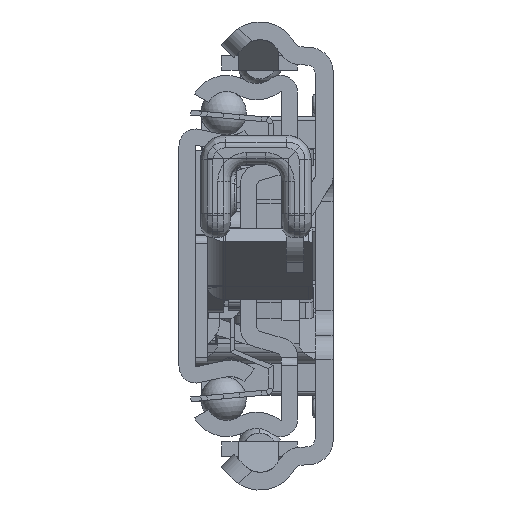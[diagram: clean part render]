
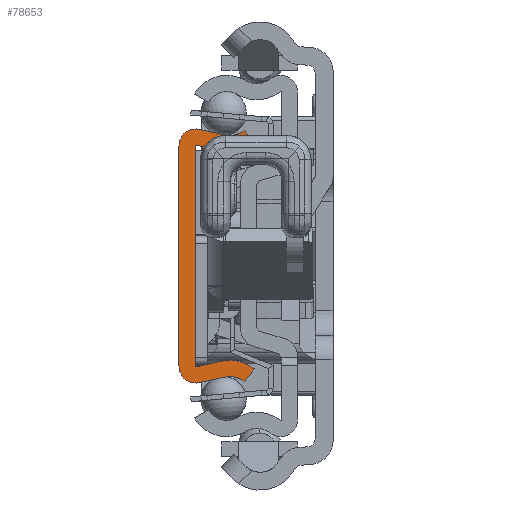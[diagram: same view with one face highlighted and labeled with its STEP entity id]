
A CAD part, left-side view. The second image highlights one B-rep face of the part: STEP entity #78653.
In plain terms, the highlighted planar face has unit normal (-1, 0, 0).
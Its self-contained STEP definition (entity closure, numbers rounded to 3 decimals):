
#72983=CARTESIAN_POINT('',(0.,-6.29,-17.65));
#72984=DIRECTION('',(-1.,0.,0.));
#72985=DIRECTION('',(0.,-0.629,0.778));
#72986=AXIS2_PLACEMENT_3D('',#72983,#72984,#72985);
#72988=DIRECTION('',(0.,0.977,-0.213));
#72989=VECTOR('',#72988,3.218);
#72990=CARTESIAN_POINT('',(0.,-5.692,-14.915));
#72991=LINE('',#72990,#72989);
#72992=CARTESIAN_POINT('',(0.,-2.1,-13.55));
#72993=DIRECTION('',(1.,0.,0.));
#72994=DIRECTION('',(0.,-0.213,-0.977));
#72995=AXIS2_PLACEMENT_3D('',#72992,#72993,#72994);
#72997=DIRECTION('',(0.,0.,1.));
#72998=VECTOR('',#72997,27.1);
#72999=CARTESIAN_POINT('',(0.,0.,-13.55));
#73000=LINE('',#72999,#72998);
#73001=CARTESIAN_POINT('',(0.,-2.1,13.55));
#73002=DIRECTION('',(1.,0.,0.));
#73003=DIRECTION('',(0.,1.,0.));
#73004=AXIS2_PLACEMENT_3D('',#73001,#73002,#73003);
#73006=DIRECTION('',(0.,-0.977,-0.213));
#73007=VECTOR('',#73006,3.218);
#73008=CARTESIAN_POINT('',(0.,-2.548,15.602));
#73009=LINE('',#73008,#73007);
#73010=CARTESIAN_POINT('',(0.,-6.29,17.65));
#73011=DIRECTION('',(-1.,0.,0.));
#73012=DIRECTION('',(0.,0.213,-0.977));
#73013=AXIS2_PLACEMENT_3D('',#73010,#73011,#73012);
#73015=DIRECTION('',(0.,-0.629,-0.778));
#73016=VECTOR('',#73015,2.);
#73017=CARTESIAN_POINT('',(0.,-8.05,15.472));
#73018=LINE('',#73017,#73016);
#73019=CARTESIAN_POINT('',(0.,-6.29,17.65));
#73020=DIRECTION('',(1.,0.,0.));
#73021=DIRECTION('',(0.,-0.629,-0.778));
#73022=AXIS2_PLACEMENT_3D('',#73019,#73020,#73021);
#73024=DIRECTION('',(0.,0.977,0.213));
#73025=VECTOR('',#73024,3.218);
#73026=CARTESIAN_POINT('',(0.,-5.265,12.961));
#73027=LINE('',#73026,#73025);
#73028=CARTESIAN_POINT('',(0.,-2.1,13.55));
#73029=DIRECTION('',(-1.,0.,0.));
#73030=DIRECTION('',(0.,-0.213,0.977));
#73031=AXIS2_PLACEMENT_3D('',#73028,#73029,#73030);
#73033=DIRECTION('',(0.,0.,-1.));
#73034=VECTOR('',#73033,27.1);
#73035=CARTESIAN_POINT('',(0.,-2.,13.55));
#73036=LINE('',#73035,#73034);
#73037=CARTESIAN_POINT('',(0.,-2.1,-13.55));
#73038=DIRECTION('',(-1.,0.,0.));
#73039=DIRECTION('',(0.,1.,0.));
#73040=AXIS2_PLACEMENT_3D('',#73037,#73038,#73039);
#73042=DIRECTION('',(0.,-0.977,0.213));
#73043=VECTOR('',#73042,3.218);
#73044=CARTESIAN_POINT('',(0.,-2.121,-13.648));
#73045=LINE('',#73044,#73043);
#73046=CARTESIAN_POINT('',(0.,-6.29,-17.65));
#73047=DIRECTION('',(1.,0.,0.));
#73048=DIRECTION('',(0.,0.213,0.977));
#73049=AXIS2_PLACEMENT_3D('',#73046,#73047,#73048);
#73051=DIRECTION('',(0.,0.629,-0.778));
#73052=VECTOR('',#73051,2.);
#73053=CARTESIAN_POINT('',(0.,-9.307,-13.917));
#73054=LINE('',#73053,#73052);
#77580=CARTESIAN_POINT('',(0.,-8.05,-15.472));
#77581=CARTESIAN_POINT('',(0.,-5.692,-14.915));
#77582=VERTEX_POINT('',#77580);
#77583=VERTEX_POINT('',#77581);
#77584=CARTESIAN_POINT('',(0.,-2.548,-15.602));
#77585=VERTEX_POINT('',#77584);
#77586=CARTESIAN_POINT('',(0.,0.,-13.55));
#77587=VERTEX_POINT('',#77586);
#77588=CARTESIAN_POINT('',(0.,0.,13.55));
#77589=VERTEX_POINT('',#77588);
#77590=CARTESIAN_POINT('',(0.,-2.548,15.602));
#77591=VERTEX_POINT('',#77590);
#77592=CARTESIAN_POINT('',(0.,-5.692,14.915));
#77593=VERTEX_POINT('',#77592);
#77594=CARTESIAN_POINT('',(0.,-8.05,15.472));
#77595=VERTEX_POINT('',#77594);
#77596=CARTESIAN_POINT('',(0.,-9.307,13.917));
#77597=VERTEX_POINT('',#77596);
#77598=CARTESIAN_POINT('',(0.,-5.265,12.961));
#77599=VERTEX_POINT('',#77598);
#77600=CARTESIAN_POINT('',(0.,-2.121,13.648));
#77601=VERTEX_POINT('',#77600);
#77602=CARTESIAN_POINT('',(0.,-2.,13.55));
#77603=VERTEX_POINT('',#77602);
#77604=CARTESIAN_POINT('',(0.,-2.,-13.55));
#77605=VERTEX_POINT('',#77604);
#77606=CARTESIAN_POINT('',(0.,-2.121,-13.648));
#77607=VERTEX_POINT('',#77606);
#77608=CARTESIAN_POINT('',(0.,-5.265,-12.961));
#77609=VERTEX_POINT('',#77608);
#77610=CARTESIAN_POINT('',(0.,-9.307,-13.917));
#77611=VERTEX_POINT('',#77610);
#78614=CARTESIAN_POINT('',(0.,0.,0.));
#78615=DIRECTION('',(1.,0.,0.));
#78616=DIRECTION('',(0.,-1.,0.));
#78617=AXIS2_PLACEMENT_3D('',#78614,#78615,#78616);
#78618=PLANE('',#78617);
#78620=ORIENTED_EDGE('',*,*,#78619,.T.);
#78622=ORIENTED_EDGE('',*,*,#78621,.T.);
#78624=ORIENTED_EDGE('',*,*,#78623,.T.);
#78626=ORIENTED_EDGE('',*,*,#78625,.T.);
#78628=ORIENTED_EDGE('',*,*,#78627,.T.);
#78630=ORIENTED_EDGE('',*,*,#78629,.T.);
#78632=ORIENTED_EDGE('',*,*,#78631,.T.);
#78634=ORIENTED_EDGE('',*,*,#78633,.T.);
#78636=ORIENTED_EDGE('',*,*,#78635,.T.);
#78638=ORIENTED_EDGE('',*,*,#78637,.T.);
#78640=ORIENTED_EDGE('',*,*,#78639,.T.);
#78642=ORIENTED_EDGE('',*,*,#78641,.T.);
#78644=ORIENTED_EDGE('',*,*,#78643,.T.);
#78646=ORIENTED_EDGE('',*,*,#78645,.T.);
#78648=ORIENTED_EDGE('',*,*,#78647,.T.);
#78650=ORIENTED_EDGE('',*,*,#78649,.T.);
#78651=EDGE_LOOP('',(#78620,#78622,#78624,#78626,#78628,#78630,#78632,#78634,
#78636,#78638,#78640,#78642,#78644,#78646,#78648,#78650));
#78652=FACE_OUTER_BOUND('',#78651,.F.);
#72987=CIRCLE('',#72986,2.8);
#72996=CIRCLE('',#72995,2.1);
#73005=CIRCLE('',#73004,2.1);
#73014=CIRCLE('',#73013,2.8);
#73023=CIRCLE('',#73022,4.8);
#73032=CIRCLE('',#73031,0.1);
#73041=CIRCLE('',#73040,0.1);
#73050=CIRCLE('',#73049,4.8);
#78619=EDGE_CURVE('',#77582,#77583,#72987,.T.);
#78621=EDGE_CURVE('',#77583,#77585,#72991,.T.);
#78623=EDGE_CURVE('',#77585,#77587,#72996,.T.);
#78625=EDGE_CURVE('',#77587,#77589,#73000,.T.);
#78627=EDGE_CURVE('',#77589,#77591,#73005,.T.);
#78629=EDGE_CURVE('',#77591,#77593,#73009,.T.);
#78631=EDGE_CURVE('',#77593,#77595,#73014,.T.);
#78633=EDGE_CURVE('',#77595,#77597,#73018,.T.);
#78635=EDGE_CURVE('',#77597,#77599,#73023,.T.);
#78637=EDGE_CURVE('',#77599,#77601,#73027,.T.);
#78639=EDGE_CURVE('',#77601,#77603,#73032,.T.);
#78641=EDGE_CURVE('',#77603,#77605,#73036,.T.);
#78643=EDGE_CURVE('',#77605,#77607,#73041,.T.);
#78645=EDGE_CURVE('',#77607,#77609,#73045,.T.);
#78647=EDGE_CURVE('',#77609,#77611,#73050,.T.);
#78649=EDGE_CURVE('',#77611,#77582,#73054,.T.);
#78653=ADVANCED_FACE('',(#78652),#78618,.F.);
